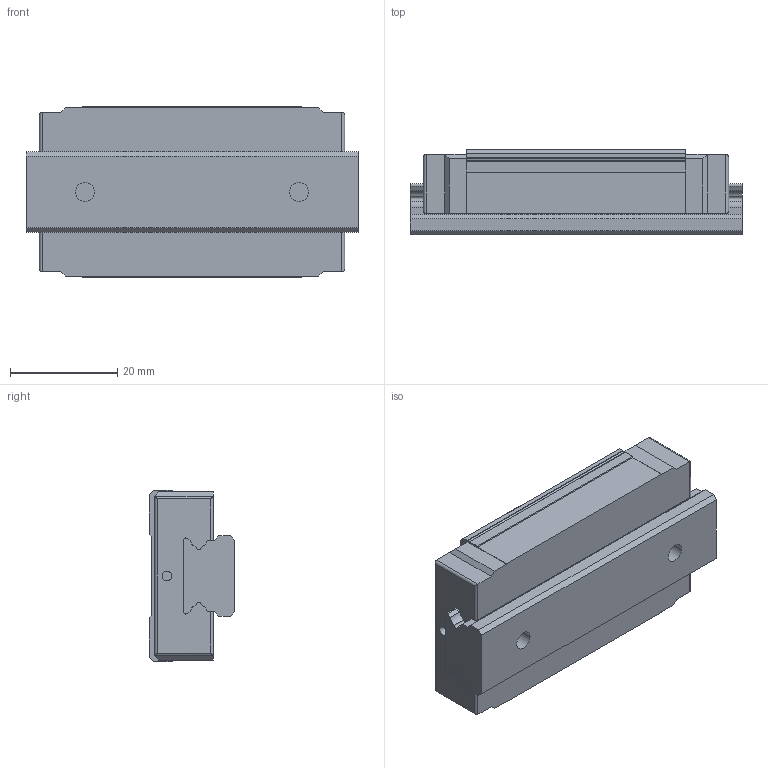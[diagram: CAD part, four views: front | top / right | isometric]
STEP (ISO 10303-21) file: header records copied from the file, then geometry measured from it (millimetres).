
FILE_DESCRIPTION( ( 'STEP AP214' ), '1' );
FILE_NAME( 'G:/品牌/AZI工艺/滑块/GGC/GGC15BAL.stp', '2024-01-19T03:44:09', ( 'License CC BY-ND 4.0' ), ( 'CADENAS' ), ' ', 'PARTsolutions', ' ' );
FILE_SCHEMA( ( 'AUTOMOTIVE_DESIGN { 1 0 10303 214 1 1 1 1 }' ) );
Length unit declared in the file: millimetre
Products named in the file (3): ZLCE16-62-(31-0-0); _ZTCE16-62; _ZZLCE16
Assembly tree (2 placements, depth 2):
  ZLCE16-62-(31-0-0)
    _ZTCE16-62
    _ZZLCE16
Bounding box: 62 x 16 x 32 mm (x, y, z)
Volume: 24235.9 mm3; surface area: 10241.5 mm2
Topology: 2 solids, 2 shells, 108 faces, 280 edges, 180 vertices
Faces by surface type: plane 61, cylinder 39, cone 8
Full cylindrical faces by diameter (mm): 1.8 x2, 2.459 x4, 3.5 x2, 6 x2
Entity records: 4094 total; most frequent: DIRECTION 554, CARTESIAN_POINT 549, ORIENTED_EDGE 516, EDGE_CURVE 258, AXIS2_PLACEMENT_3D 185, LINE 184, VECTOR 184, VERTEX_POINT 180
